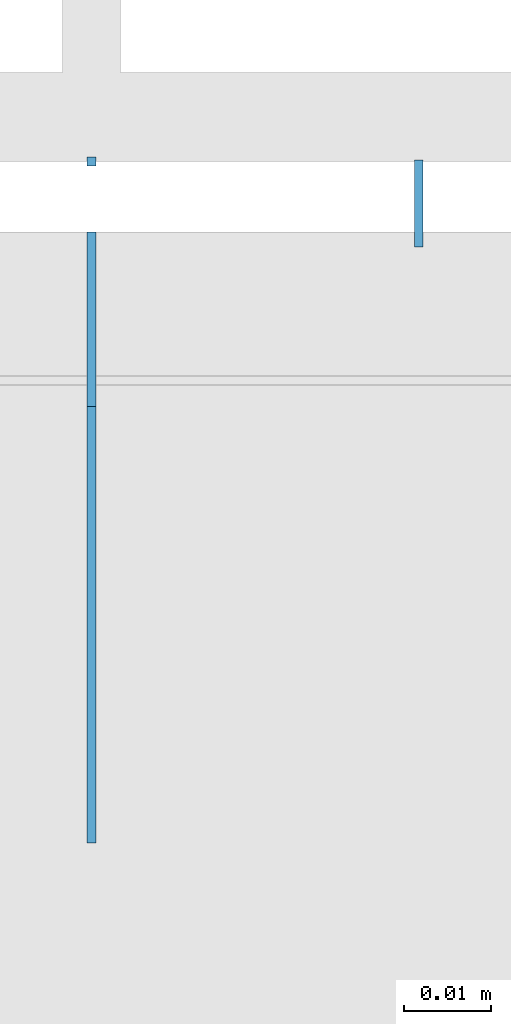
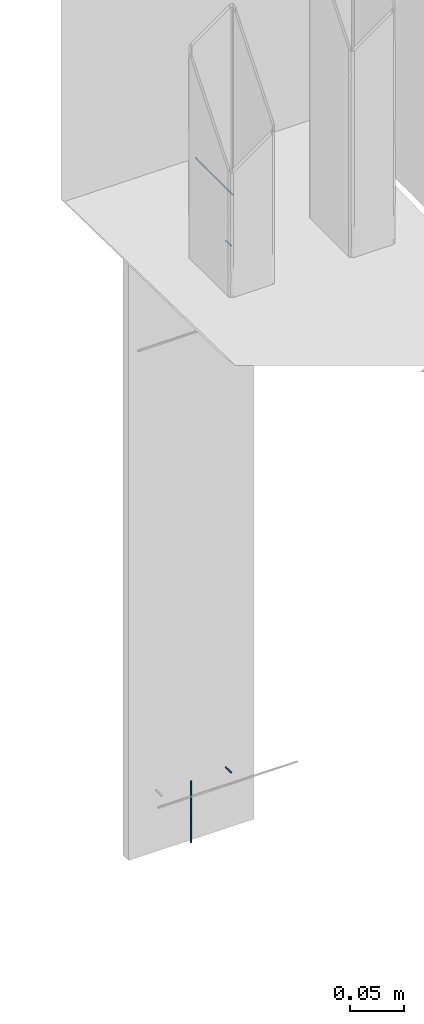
# One storey, part 98 of 186: 5 beams.
"""IFC4X3_ADD2 building model written with IfcOpenShell, lengths in millimetres."""

from ifc_helpers import new_model, si_unit, direction, frame, frame_2d, origin_with_axes, place, context, subcontext, project, spatial, rectangle, extrude, material, element, save


model = new_model("IFC4X3_ADD2")

# Units and contexts
model_context = context("Model", 3, precision=1e-05, world=origin_with_axes(), true_north=direction((0.0, 1.0)))
body_context = subcontext(model_context, "Body", "Model", "MODEL_VIEW")
ifc_project = project(units=[si_unit("LENGTHUNIT", "METRE", prefix="MILLI"), si_unit("AREAUNIT", "SQUARE_METRE"), si_unit("VOLUMEUNIT", "CUBIC_METRE"), si_unit("PLANEANGLEUNIT", "RADIAN"), si_unit("TIMEUNIT", "SECOND"), si_unit("MASSUNIT", "GRAM")], contexts=[model_context])

# Site, building, storey
site_placement = place(None, origin_with_axes())
site = spatial("IfcSite", under=ifc_project, at=site_placement, Name="Site", CompositionType="ELEMENT")
building_placement = place(site_placement, origin_with_axes())
building = spatial("IfcBuilding", under=site, at=building_placement, Name="IFC Building Story")
storey_placement = place(building_placement, frame((0.0, 0.0, 4370.0), z_axis=(0.0, 0.0, 1.0), x_axis=(1.0, 0.0, 0.0)))
storey = spatial("IfcBuildingStorey", under=building, at=storey_placement, Name="ETAGE 10 (1)", Elevation=4370.0)

# Beams
ifc_material_1 = material(Name="STEEL/Accessory_invisible")
beam_1_placement = place(storey_placement, frame((10793.1886362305, 17983.2997253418, 3729.45), z_axis=(1.0, 0.0, 0.0), x_axis=(0.0, 0.0, 1.0)))
element("IfcBeam", 1, at=beam_1_placement, inside=storey, material=ifc_material_1, Name="MP21", ObjectType="1*1 9", context=body_context, shape_type="SweptSolid", body=[
    extrude(rectangle(XDim=0.9999999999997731, YDim=10.0, at=frame_2d((0.0, 5.95523630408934e-12), x_axis=(1.0, 0.0))), origin_with_axes(), (0.0, 0.0, 1.0), 1.0),
])
ifc_material_2 = material(Name="STEEL/Accessory_invisible 261")
beam_2_placement = place(storey_placement, frame((10755.689, 17969.9997253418, 3841.801368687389), z_axis=(1.0, 0.0, 0.0), x_axis=(0.0, 0.0, 1.0)))
element("IfcBeam", 2, at=beam_2_placement, inside=storey, material=ifc_material_2, Name="PR10", ObjectType="1*1 13", context=body_context, shape_type="SweptSolid", body=[
    extrude(rectangle(XDim=0.9999999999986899, YDim=20.0, at=frame_2d((0.0, 5.95523630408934e-12), x_axis=(1.0, 0.0))), origin_with_axes(), (0.0, 0.0, 1.0), 1.0),
])
beam_3_placement = place(storey_placement, frame((10756.6886362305, 17988.0997253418, 3091.95), z_axis=(-1.0, 0.0, 0.0), x_axis=(0.0, 0.0, 1.0)))
element("IfcBeam", 3, at=beam_3_placement, inside=storey, material=ifc_material_1, Name="ZW1", ObjectType="1*1 10", context=body_context, shape_type="SweptSolid", body=[
    extrude(rectangle(XDim=70.0000000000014, YDim=1.0, at=frame_2d((0.0, 5.95523630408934e-12), x_axis=(1.0, 0.0))), origin_with_axes(), (0.0, 0.0, 1.0), 1.0),
])
beam_4_placement = place(storey_placement, frame((10793.1886362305, 17983.2997253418, 3129.45), z_axis=(1.0, 0.0, 0.0), x_axis=(0.0, 0.0, 1.0)))
element("IfcBeam", 4, at=beam_4_placement, inside=storey, material=ifc_material_1, Name="MP21", ObjectType="1*1 9", context=body_context, shape_type="SweptSolid", body=[
    extrude(rectangle(XDim=0.9999999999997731, YDim=10.0, at=frame_2d((0.0, 5.95523630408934e-12), x_axis=(1.0, 0.0))), origin_with_axes(), (0.0, 0.0, 1.0), 1.0),
])
beam_5_placement = place(storey_placement, frame((10755.689, 17934.9997253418, 3841.801368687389), z_axis=(1.0, 0.0, 0.0), x_axis=(0.0, 0.0, 1.0)))
element("IfcBeam", 5, at=beam_5_placement, inside=storey, material=ifc_material_1, Name="ZW1", ObjectType="1*1 14", context=body_context, shape_type="SweptSolid", body=[
    extrude(rectangle(XDim=0.9999999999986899, YDim=50.0, at=frame_2d((0.0, 5.95523630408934e-12), x_axis=(1.0, 0.0))), origin_with_axes(), (0.0, 0.0, 1.0), 1.0),
])

save(model, "model.ifc")
